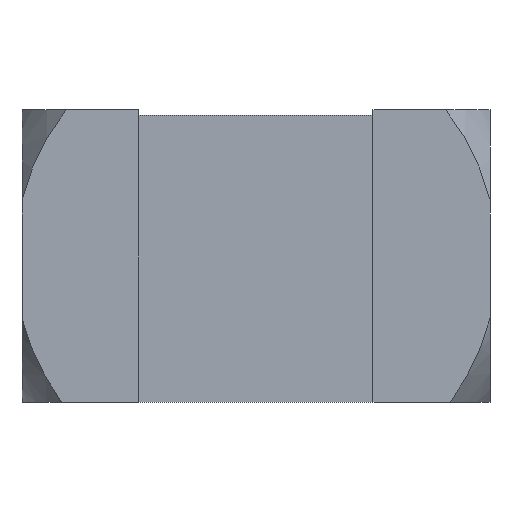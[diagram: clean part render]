
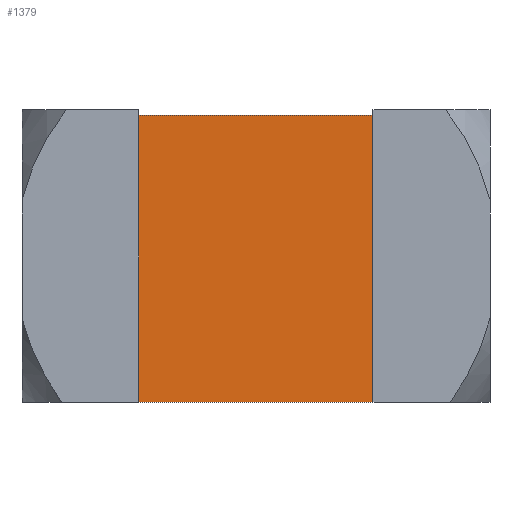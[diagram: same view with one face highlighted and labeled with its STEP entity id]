
A CAD part, front view. The second image highlights one B-rep face of the part: STEP entity #1379.
In plain terms, the highlighted planar face has unit normal (0, -1, 0).
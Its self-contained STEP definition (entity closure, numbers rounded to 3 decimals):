
#221 = VERTEX_POINT('',#222);
#222 = CARTESIAN_POINT('',(-0.518,-0.635,0.));
#260 = PLANE('',#261);
#261 = AXIS2_PLACEMENT_3D('',#262,#263,#264);
#262 = CARTESIAN_POINT('',(-1.016,-0.635,0.));
#263 = DIRECTION('',(0.,0.,1.));
#264 = DIRECTION('',(1.,0.,0.));
#350 = B_SPLINE_SURFACE_WITH_KNOTS('',1,1,(
    (#351,#352)
    ,(#353,#354
    )),.UNSPECIFIED.,.F.,.F.,.F.,(2,2),(2,2),(0.,1.27),(-1.27,0.),
  .PIECEWISE_BEZIER_KNOTS.);
#351 = CARTESIAN_POINT('',(-0.518,0.648,0.));
#352 = CARTESIAN_POINT('',(-0.518,-0.648,0.));
#353 = CARTESIAN_POINT('',(-0.518,0.648,1.295));
#354 = CARTESIAN_POINT('',(-0.518,-0.648,1.295));
#393 = EDGE_CURVE('',#221,#394,#396,.T.);
#394 = VERTEX_POINT('',#395);
#395 = CARTESIAN_POINT('',(0.518,-0.635,0.));
#396 = SURFACE_CURVE('',#397,(#401,#408),.PCURVE_S1.);
#397 = LINE('',#398,#399);
#398 = CARTESIAN_POINT('',(-1.016,-0.635,0.));
#399 = VECTOR('',#400,1.);
#400 = DIRECTION('',(1.,0.,0.));
#401 = PCURVE('',#260,#402);
#402 = DEFINITIONAL_REPRESENTATION('',(#403),#407);
#403 = LINE('',#404,#405);
#404 = CARTESIAN_POINT('',(0.,0.));
#405 = VECTOR('',#406,1.);
#406 = DIRECTION('',(1.,0.));
#407 = ( GEOMETRIC_REPRESENTATION_CONTEXT(2) 
PARAMETRIC_REPRESENTATION_CONTEXT() REPRESENTATION_CONTEXT('2D SPACE',''
  ) );
#408 = PCURVE('',#409,#414);
#409 = PLANE('',#410);
#410 = AXIS2_PLACEMENT_3D('',#411,#412,#413);
#411 = CARTESIAN_POINT('',(-1.016,-0.635,0.));
#412 = DIRECTION('',(0.,1.,0.));
#413 = DIRECTION('',(0.,0.,1.));
#414 = DEFINITIONAL_REPRESENTATION('',(#415),#419);
#415 = LINE('',#416,#417);
#416 = CARTESIAN_POINT('',(0.,0.));
#417 = VECTOR('',#418,1.);
#418 = DIRECTION('',(0.,1.));
#419 = ( GEOMETRIC_REPRESENTATION_CONTEXT(2) 
PARAMETRIC_REPRESENTATION_CONTEXT() REPRESENTATION_CONTEXT('2D SPACE',''
  ) );
#1042 = EDGE_CURVE('',#1043,#221,#1045,.T.);
#1043 = VERTEX_POINT('',#1044);
#1044 = CARTESIAN_POINT('',(-0.518,-0.635,1.27));
#1045 = SURFACE_CURVE('',#1046,(#1049,#1055),.PCURVE_S1.);
#1046 = B_SPLINE_CURVE_WITH_KNOTS('',1,(#1047,#1048),.UNSPECIFIED.,.F.,
  .F.,(2,2),(0.,1.),.PIECEWISE_BEZIER_KNOTS.);
#1047 = CARTESIAN_POINT('',(-0.518,-0.635,1.27));
#1048 = CARTESIAN_POINT('',(-0.518,-0.635,0.));
#1049 = PCURVE('',#350,#1050);
#1050 = DEFINITIONAL_REPRESENTATION('',(#1051),#1054);
#1051 = B_SPLINE_CURVE_WITH_KNOTS('',1,(#1052,#1053),.UNSPECIFIED.,.F.,
  .F.,(2,2),(0.,1.),.PIECEWISE_BEZIER_KNOTS.);
#1052 = CARTESIAN_POINT('',(1.245,-0.012));
#1053 = CARTESIAN_POINT('',(0.,-0.012));
#1054 = ( GEOMETRIC_REPRESENTATION_CONTEXT(2) 
PARAMETRIC_REPRESENTATION_CONTEXT() REPRESENTATION_CONTEXT('2D SPACE',''
  ) );
#1055 = PCURVE('',#409,#1056);
#1056 = DEFINITIONAL_REPRESENTATION('',(#1057),#1060);
#1057 = B_SPLINE_CURVE_WITH_KNOTS('',1,(#1058,#1059),.UNSPECIFIED.,.F.,
  .F.,(2,2),(0.,1.),.PIECEWISE_BEZIER_KNOTS.);
#1058 = CARTESIAN_POINT('',(1.27,0.498));
#1059 = CARTESIAN_POINT('',(0.,0.498));
#1060 = ( GEOMETRIC_REPRESENTATION_CONTEXT(2) 
PARAMETRIC_REPRESENTATION_CONTEXT() REPRESENTATION_CONTEXT('2D SPACE',''
  ) );
#1076 = PLANE('',#1077);
#1077 = AXIS2_PLACEMENT_3D('',#1078,#1079,#1080);
#1078 = CARTESIAN_POINT('',(-1.016,-0.635,1.27));
#1079 = DIRECTION('',(0.,0.,1.));
#1080 = DIRECTION('',(1.,0.,0.));
#1147 = B_SPLINE_SURFACE_WITH_KNOTS('',1,1,(
    (#1148,#1149)
    ,(#1150,#1151
    )),.UNSPECIFIED.,.F.,.F.,.F.,(2,2),(2,2),(0.,1.27),(-1.27,0.),
  .PIECEWISE_BEZIER_KNOTS.);
#1148 = CARTESIAN_POINT('',(0.518,0.648,0.));
#1149 = CARTESIAN_POINT('',(0.518,-0.648,0.));
#1150 = CARTESIAN_POINT('',(0.518,0.648,1.295));
#1151 = CARTESIAN_POINT('',(0.518,-0.648,1.295));
#1379 = ADVANCED_FACE('',(#1380),#409,.F.);
#1380 = FACE_BOUND('',#1381,.F.);
#1381 = EDGE_LOOP('',(#1382,#1383,#1384,#1407));
#1382 = ORIENTED_EDGE('',*,*,#393,.F.);
#1383 = ORIENTED_EDGE('',*,*,#1042,.F.);
#1384 = ORIENTED_EDGE('',*,*,#1385,.T.);
#1385 = EDGE_CURVE('',#1043,#1386,#1388,.T.);
#1386 = VERTEX_POINT('',#1387);
#1387 = CARTESIAN_POINT('',(0.518,-0.635,1.27));
#1388 = SURFACE_CURVE('',#1389,(#1393,#1400),.PCURVE_S1.);
#1389 = LINE('',#1390,#1391);
#1390 = CARTESIAN_POINT('',(-1.016,-0.635,1.27));
#1391 = VECTOR('',#1392,1.);
#1392 = DIRECTION('',(1.,0.,0.));
#1393 = PCURVE('',#409,#1394);
#1394 = DEFINITIONAL_REPRESENTATION('',(#1395),#1399);
#1395 = LINE('',#1396,#1397);
#1396 = CARTESIAN_POINT('',(1.27,0.));
#1397 = VECTOR('',#1398,1.);
#1398 = DIRECTION('',(0.,1.));
#1399 = ( GEOMETRIC_REPRESENTATION_CONTEXT(2) 
PARAMETRIC_REPRESENTATION_CONTEXT() REPRESENTATION_CONTEXT('2D SPACE',''
  ) );
#1400 = PCURVE('',#1076,#1401);
#1401 = DEFINITIONAL_REPRESENTATION('',(#1402),#1406);
#1402 = LINE('',#1403,#1404);
#1403 = CARTESIAN_POINT('',(0.,0.));
#1404 = VECTOR('',#1405,1.);
#1405 = DIRECTION('',(1.,0.));
#1406 = ( GEOMETRIC_REPRESENTATION_CONTEXT(2) 
PARAMETRIC_REPRESENTATION_CONTEXT() REPRESENTATION_CONTEXT('2D SPACE',''
  ) );
#1407 = ORIENTED_EDGE('',*,*,#1408,.T.);
#1408 = EDGE_CURVE('',#1386,#394,#1409,.T.);
#1409 = SURFACE_CURVE('',#1410,(#1413,#1419),.PCURVE_S1.);
#1410 = B_SPLINE_CURVE_WITH_KNOTS('',1,(#1411,#1412),.UNSPECIFIED.,.F.,
  .F.,(2,2),(0.,1.),.PIECEWISE_BEZIER_KNOTS.);
#1411 = CARTESIAN_POINT('',(0.518,-0.635,1.27));
#1412 = CARTESIAN_POINT('',(0.518,-0.635,0.));
#1413 = PCURVE('',#409,#1414);
#1414 = DEFINITIONAL_REPRESENTATION('',(#1415),#1418);
#1415 = B_SPLINE_CURVE_WITH_KNOTS('',1,(#1416,#1417),.UNSPECIFIED.,.F.,
  .F.,(2,2),(0.,1.),.PIECEWISE_BEZIER_KNOTS.);
#1416 = CARTESIAN_POINT('',(1.27,1.534));
#1417 = CARTESIAN_POINT('',(0.,1.534));
#1418 = ( GEOMETRIC_REPRESENTATION_CONTEXT(2) 
PARAMETRIC_REPRESENTATION_CONTEXT() REPRESENTATION_CONTEXT('2D SPACE',''
  ) );
#1419 = PCURVE('',#1147,#1420);
#1420 = DEFINITIONAL_REPRESENTATION('',(#1421),#1424);
#1421 = B_SPLINE_CURVE_WITH_KNOTS('',1,(#1422,#1423),.UNSPECIFIED.,.F.,
  .F.,(2,2),(0.,1.),.PIECEWISE_BEZIER_KNOTS.);
#1422 = CARTESIAN_POINT('',(1.245,-0.012));
#1423 = CARTESIAN_POINT('',(0.,-0.012));
#1424 = ( GEOMETRIC_REPRESENTATION_CONTEXT(2) 
PARAMETRIC_REPRESENTATION_CONTEXT() REPRESENTATION_CONTEXT('2D SPACE',''
  ) );
